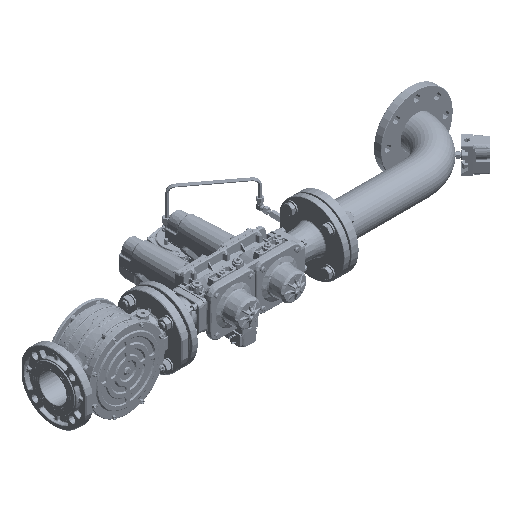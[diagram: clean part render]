
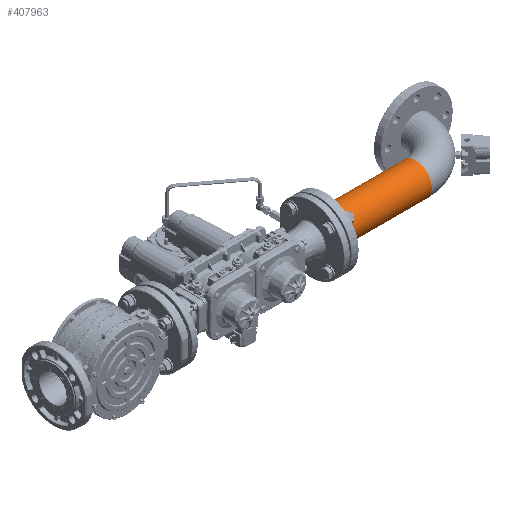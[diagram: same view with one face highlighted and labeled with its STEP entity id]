
A CAD part, isometric view. The second image highlights one B-rep face of the part: STEP entity #407963.
In plain terms, the highlighted cylindrical face has radius 44.45 mm (diameter 88.9 mm), a full revolution.
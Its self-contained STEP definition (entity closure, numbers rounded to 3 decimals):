
#1599 = DIRECTION ( 'NONE',  ( 0., 0., -1. ) ) ;
#6104 = CYLINDRICAL_SURFACE ( 'NONE', #551451, 44.45 ) ;
#14306 = CARTESIAN_POINT ( 'NONE',  ( 210., 114.5, -44.45 ) ) ;
#16784 = DIRECTION ( 'NONE',  ( 1., 0., 0. ) ) ;
#59029 = VERTEX_POINT ( 'NONE', #215171 ) ;
#73104 = EDGE_LOOP ( 'NONE', ( #525359 ) ) ;
#107795 = FACE_OUTER_BOUND ( 'NONE', #73104, .T. ) ;
#112519 = EDGE_CURVE ( 'NONE', #59029, #59029, #192976, .T. ) ;
#179185 = DIRECTION ( 'NONE',  ( -1., 0., 0. ) ) ;
#192976 = CIRCLE ( 'NONE', #343816, 44.45 ) ;
#215171 = CARTESIAN_POINT ( 'NONE',  ( -50., 114.5, -44.45 ) ) ;
#229668 = CIRCLE ( 'NONE', #426538, 44.45 ) ;
#269482 = CARTESIAN_POINT ( 'NONE',  ( 210., 114.5, 0. ) ) ;
#343816 = AXIS2_PLACEMENT_3D ( 'NONE', #505956, #179185, #1599 ) ;
#378196 = DIRECTION ( 'NONE',  ( 0., 0., -1. ) ) ;
#400364 = EDGE_CURVE ( 'NONE', #449960, #449960, #229668, .T. ) ;
#407963 = ADVANCED_FACE ( 'NONE', ( #554130, #107795 ), #6104, .T. ) ;
#426538 = AXIS2_PLACEMENT_3D ( 'NONE', #269482, #505040, #378196 ) ;
#449960 = VERTEX_POINT ( 'NONE', #14306 ) ;
#456812 = ORIENTED_EDGE ( 'NONE', *, *, #112519, .F. ) ;
#505040 = DIRECTION ( 'NONE',  ( -1., 0., 0. ) ) ;
#505956 = CARTESIAN_POINT ( 'NONE',  ( -50., 114.5, 0. ) ) ;
#510382 = DIRECTION ( 'NONE',  ( 0., 0., 1. ) ) ;
#512798 = EDGE_LOOP ( 'NONE', ( #456812 ) ) ;
#525359 = ORIENTED_EDGE ( 'NONE', *, *, #400364, .T. ) ;
#551451 = AXIS2_PLACEMENT_3D ( 'NONE', #655720, #16784, #510382 ) ;
#554130 = FACE_OUTER_BOUND ( 'NONE', #512798, .T. ) ;
#655720 = CARTESIAN_POINT ( 'NONE',  ( -50., 114.5, 0. ) ) ;
